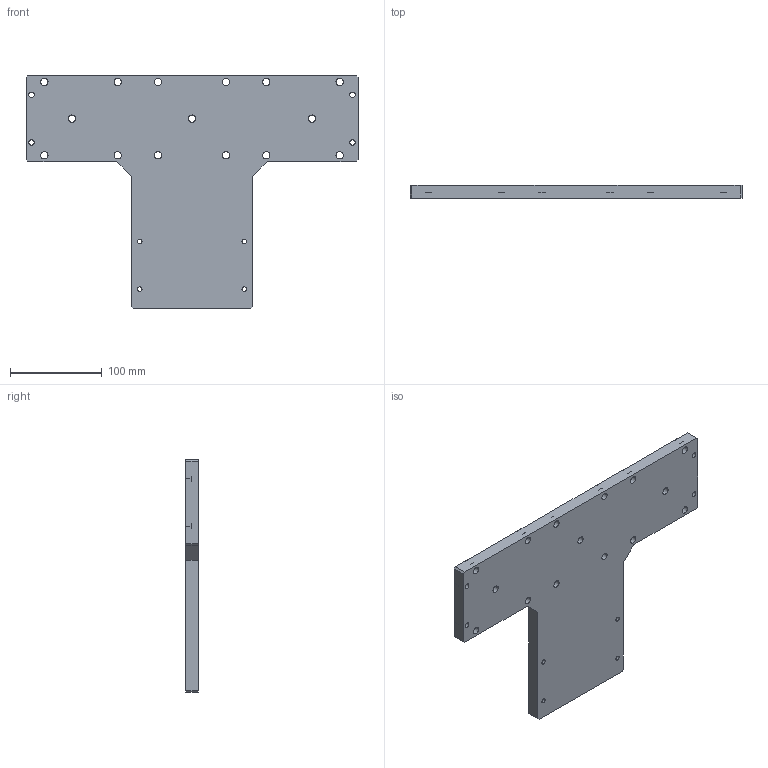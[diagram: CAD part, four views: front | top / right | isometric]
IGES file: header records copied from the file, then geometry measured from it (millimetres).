
Start section:  PTC IGES file: k100-k100m-ft.igs
Global section: file name: k100-k100m-ft.igs; native system: Pro/ENGINEER by Parametric Technology Corporation; preprocessor: 2008230; author: Owner; organization: Unknown; date: 20121212.112205; units: millimetre
Bounding box: 362 x 14 x 254 mm (x, y, z)
Surface area: 135631.9 mm2 (no closed solid volume)
Topology: 0 solids, 0 shells, 121 faces, 632 edges, 625 vertices
Faces by surface type: revolution 84, bspline 37
